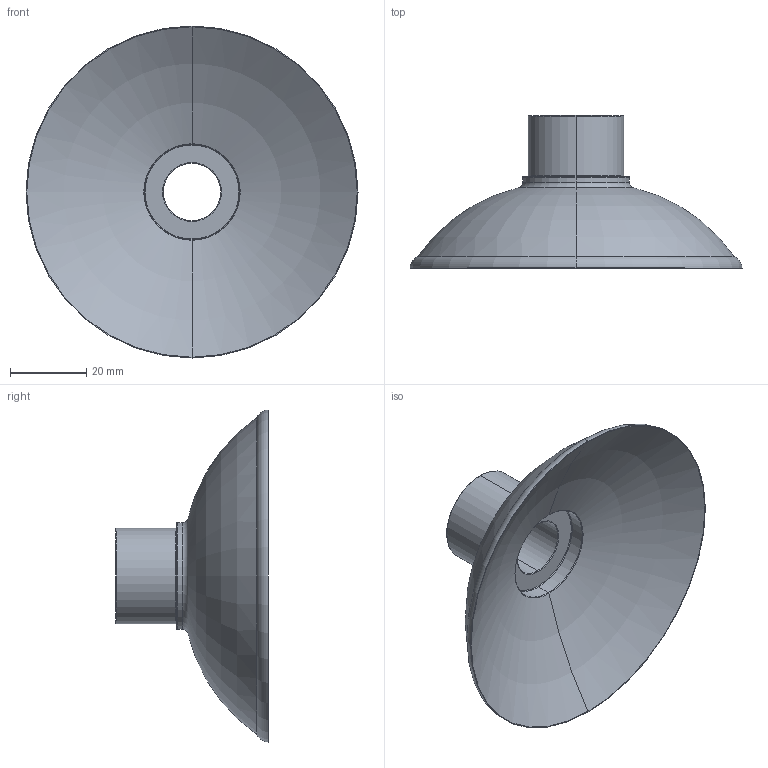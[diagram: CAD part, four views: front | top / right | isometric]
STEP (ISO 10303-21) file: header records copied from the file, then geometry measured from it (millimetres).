
FILE_DESCRIPTION (( 'STEP AP203' ), '1' );
FILE_NAME ('5_87--A_(ind_A).STEP', '2016-08-09T14:12:02', ( '' ), ( '' ), 'SwSTEP 2.0', 'SolidWorks 2016', '' );
FILE_SCHEMA (( 'CONFIG_CONTROL_DESIGN' ));
Length unit declared in the file: millimetre
Products named in the file (1): 5_87--A_(ind_A)
Bounding box: 87 x 40 x 87 mm (x, y, z)
Volume: 36938.3 mm3; surface area: 16815.8 mm2
Topology: 1 solids, 1 shells, 34 faces, 68 edges, 38 vertices
Faces by surface type: torus 22, cylinder 8, plane 4
Entity records: 977 total; most frequent: DIRECTION 198, CARTESIAN_POINT 141, ORIENTED_EDGE 136, AXIS2_PLACEMENT_3D 95, EDGE_CURVE 68, CIRCLE 60, EDGE_LOOP 38, VERTEX_POINT 38
